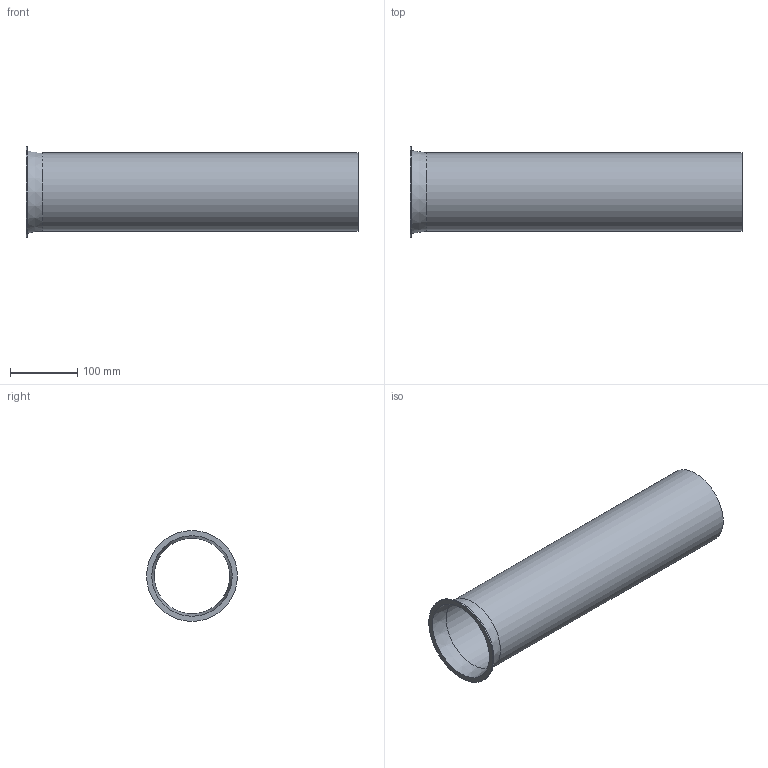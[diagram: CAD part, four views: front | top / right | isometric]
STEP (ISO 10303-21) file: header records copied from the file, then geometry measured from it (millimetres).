
FILE_DESCRIPTION((''),'2;1');
FILE_NAME('U:\Wolfgang\Marcel-3D\fertig\Kapitel 1\1211007.stp','2010-05-31T11:02:33',('TK2'),(''),'Autodesk Inventor 2010','Autodesk Inventor 2010','');
FILE_SCHEMA(('AUTOMOTIVE_DESIGN { 1 0 10303 214 1 1 1 1 }'));
Length unit declared in the file: millimetre
Products named in the file (1): 1211007
Bounding box: 493 x 135 x 135 mm (x, y, z)
Volume: 358679.3 mm3; surface area: 360232.8 mm2
Topology: 1 solids, 1 shells, 8 faces, 14 edges, 9 vertices
Faces by surface type: cylinder 3, plane 3, cone 2
Full cylindrical faces by diameter (mm): 112 x1, 116 x1, 135 x1
Entity records: 194 total; most frequent: DIRECTION 34, CARTESIAN_POINT 25, AXIS2_PLACEMENT_3D 17, ORIENTED_EDGE 16, EDGE_LOOP 16, VERTEX_POINT 8, CIRCLE 8, EDGE_CURVE 8
